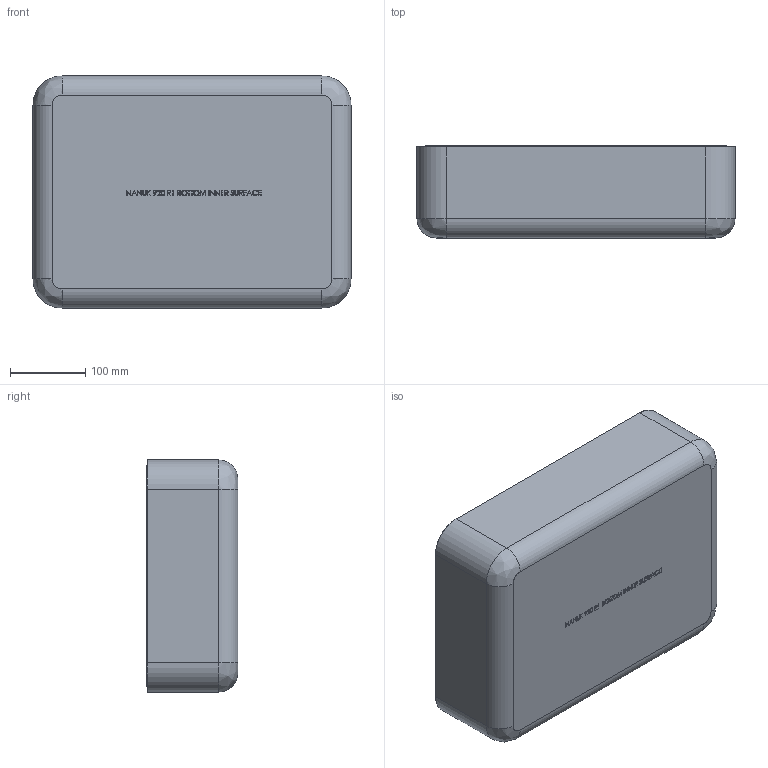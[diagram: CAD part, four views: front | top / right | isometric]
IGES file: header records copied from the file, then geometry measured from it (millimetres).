
Start section: SolidWorks IGES file using analytic representation for surfaces
Global section: file name: C:\Users\ericp\OneDrive\Documents\Plasticase Co-op\New Nanuk Cases\920\NEW DESIGN R1\4 - 3D FILES\1 - FINAL 3D\920 Inner Surfaces\920_R1_Btm_INNER_SURFACE_IGES.IGS; native system: SolidWorks 2018; preprocessor: SolidWorks 2018; author: ericp; date: 200317.140445; units: inch
Bounding box: 422.55 x 121.79 x 308.25 mm (x, y, z)
Surface area: 536697.2 mm2 (no closed solid volume)
Topology: 0 solids, 0 shells, 1049 faces, 11737 edges, 11736 vertices
Faces by surface type: bspline 869, revolution 180
